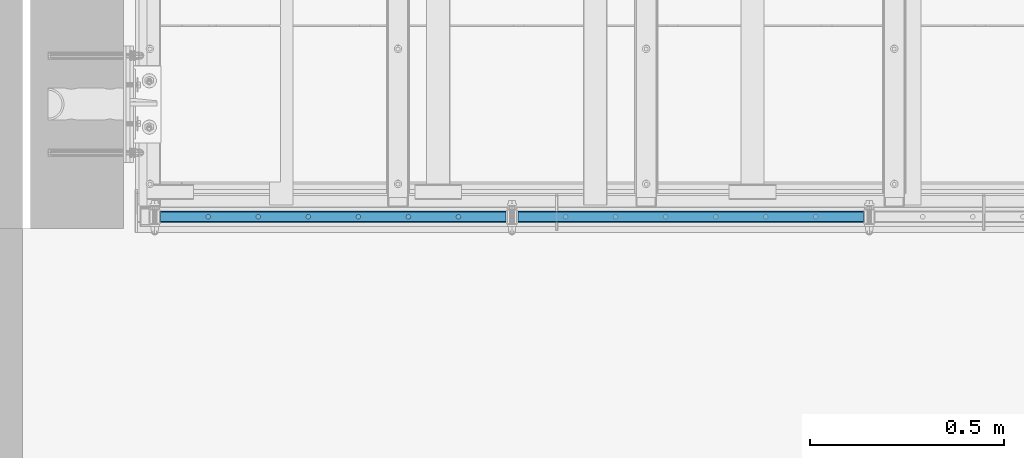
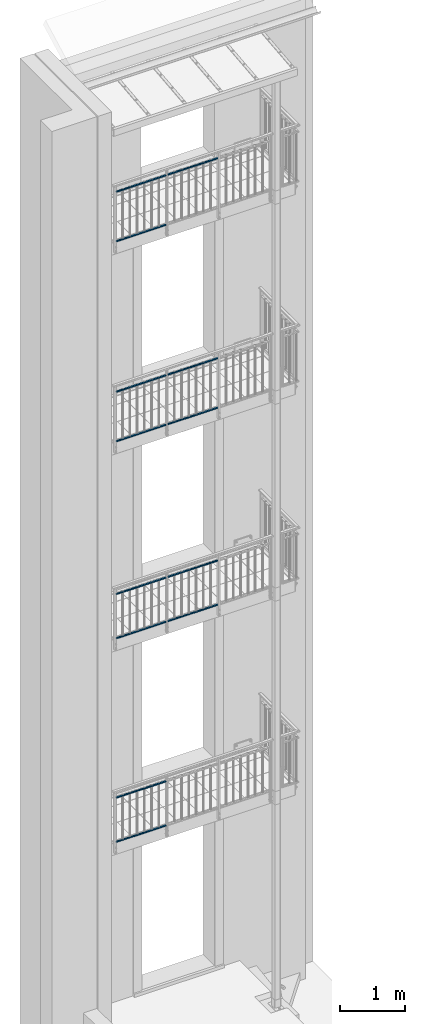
# One storey, part 50 of 162: 13 beams, 78 openings.
"""IFC2X3 building model written with IfcOpenShell, lengths in millimetres."""

from ifc_helpers import new_model, entity, si_unit, converted_unit, frame, origin, origin_with_axes, origin_2d, origin_2d_with_axis, place, context, project, spatial, hollow_rectangle, circle, extrude, material, element, save


model = new_model("IFC2X3")

# Units and contexts
model_context = context("Model", 3, precision=1e-09, world=origin_with_axes())
ifc_project = project(units=[si_unit("LENGTHUNIT", "METRE", prefix="MILLI"), si_unit("AREAUNIT", "SQUARE_METRE"), si_unit("VOLUMEUNIT", "CUBIC_METRE"), converted_unit("PLANEANGLEUNIT", "DEGREE", entity("IfcPlaneAngleMeasure", 0.01745329), si_unit("PLANEANGLEUNIT", "RADIAN"), dimensions=[0, 0, 0, 0, 0, 0, 0])], contexts=[model_context])

# Site, building, storey
site_placement = place(None, origin_with_axes())
site = spatial("IfcSite", under=ifc_project, at=site_placement, Name="Hermannstra?e 1a, 60318 Frankfurt", CompositionType="ELEMENT")
building_placement = place(site_placement, origin_with_axes())
building = spatial("IfcBuilding", under=site, at=building_placement, Name="Struktur 1", CompositionType="ELEMENT")
storey_placement = place(building_placement, origin_with_axes())
storey = spatial("IfcBuildingStorey", under=building, at=storey_placement, Name="Default Storey", CompositionType="ELEMENT", Elevation=0.0)

# Beam, openings
ifc_material = material(Name="S235JR")
beam_1_placement = place(None, frame((2618.30936482, 1515.609373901, 8640.0), z_axis=(-1.0, 0.0, 0.0), x_axis=(0.0, 0.0, -1.0)))
beam_1 = element("IfcBeam", 1, at=beam_1_placement, inside=storey, material=ifc_material, Name="-", ObjectType="-", context=model_context, shape_type="SweptSolid", body=[
    extrude(hollow_rectangle(XDim=20.0, YDim=30.0, WallThickness=2.0, InnerFilletRadius=2.0, OuterFilletRadius=4.0, at=origin_2d()), origin(), (0.0, 0.0, -1.0), 890.0),
])
opening_1_placement = place(beam_1_placement, frame((7.5, 0.0, -767.142857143), z_axis=(1.0, 0.0, 0.0), x_axis=(0.0, -1.0, 0.0)))
element("IfcOpeningElement", 2, at=opening_1_placement, cuts=beam_1, ObjectType="Opening", context=model_context, shape_type="SweptSolid", body=[
    extrude(circle(Radius=6.051, at=origin_2d_with_axis()), origin(), (0.0, 0.0, 1.0), 3.0),
])
opening_2_placement = place(beam_1_placement, frame((7.5, 0.0, -251.714285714), z_axis=(1.0, 0.0, 0.0), x_axis=(0.0, -1.0, 0.0)))
element("IfcOpeningElement", 3, at=opening_2_placement, cuts=beam_1, ObjectType="Opening", context=model_context, shape_type="SweptSolid", body=[
    extrude(circle(Radius=6.051, at=origin_2d_with_axis()), origin(), (0.0, 0.0, 1.0), 3.0),
])
opening_3_placement = place(beam_1_placement, frame((7.5, 0.0, -380.571428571), z_axis=(1.0, 0.0, 0.0), x_axis=(0.0, -1.0, 0.0)))
element("IfcOpeningElement", 4, at=opening_3_placement, cuts=beam_1, ObjectType="Opening", context=model_context, shape_type="SweptSolid", body=[
    extrude(circle(Radius=6.051, at=origin_2d_with_axis()), origin(), (0.0, 0.0, 1.0), 3.0),
])
opening_4_placement = place(beam_1_placement, frame((7.5, 0.0, -122.857142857), z_axis=(1.0, 0.0, 0.0), x_axis=(0.0, -1.0, 0.0)))
element("IfcOpeningElement", 5, at=opening_4_placement, cuts=beam_1, ObjectType="Opening", context=model_context, shape_type="SweptSolid", body=[
    extrude(circle(Radius=6.051, at=origin_2d_with_axis()), origin(), (0.0, 0.0, 1.0), 3.0),
])
opening_5_placement = place(beam_1_placement, frame((7.5, 0.0, -638.285714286), z_axis=(1.0, 0.0, 0.0), x_axis=(0.0, -1.0, 0.0)))
element("IfcOpeningElement", 6, at=opening_5_placement, cuts=beam_1, ObjectType="Opening", context=model_context, shape_type="SweptSolid", body=[
    extrude(circle(Radius=6.051, at=origin_2d_with_axis()), origin(), (0.0, 0.0, 1.0), 3.0),
])
opening_6_placement = place(beam_1_placement, frame((7.5, 0.0, -509.428571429), z_axis=(1.0, 0.0, 0.0), x_axis=(0.0, -1.0, 0.0)))
element("IfcOpeningElement", 7, at=opening_6_placement, cuts=beam_1, ObjectType="Opening", context=model_context, shape_type="SweptSolid", body=[
    extrude(circle(Radius=6.051, at=origin_2d_with_axis()), origin(), (0.0, 0.0, 1.0), 3.0),
])

beam_2_placement = place(None, frame((2618.30936482, 1515.609373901, 7810.0), z_axis=(-1.0, 0.0, 0.0), x_axis=(0.0, 0.0, -1.0)))
beam_2 = element("IfcBeam", 8, at=beam_2_placement, inside=storey, material=ifc_material, Name="-", ObjectType="-", context=model_context, shape_type="SweptSolid", body=[
    extrude(hollow_rectangle(XDim=20.0, YDim=30.0, WallThickness=2.0, InnerFilletRadius=2.0, OuterFilletRadius=4.0, at=origin_2d()), origin(), (0.0, 0.0, -1.0), 890.0),
])
opening_7_placement = place(beam_2_placement, frame((-7.5, 0.0, -122.857142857), z_axis=(-1.0, 0.0, 0.0), x_axis=(0.0, 1.0, 0.0)))
element("IfcOpeningElement", 9, at=opening_7_placement, cuts=beam_2, ObjectType="Opening", context=model_context, shape_type="SweptSolid", body=[
    extrude(circle(Radius=6.051, at=origin_2d_with_axis()), origin(), (0.0, 0.0, 1.0), 3.0),
])
opening_8_placement = place(beam_2_placement, frame((-7.5, 0.0, -251.714285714), z_axis=(-1.0, 0.0, 0.0), x_axis=(0.0, 1.0, 0.0)))
element("IfcOpeningElement", 10, at=opening_8_placement, cuts=beam_2, ObjectType="Opening", context=model_context, shape_type="SweptSolid", body=[
    extrude(circle(Radius=6.051, at=origin_2d_with_axis()), origin(), (0.0, 0.0, 1.0), 3.0),
])
opening_9_placement = place(beam_2_placement, frame((-7.5, 0.0, -380.571428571), z_axis=(-1.0, 0.0, 0.0), x_axis=(0.0, 1.0, 0.0)))
element("IfcOpeningElement", 11, at=opening_9_placement, cuts=beam_2, ObjectType="Opening", context=model_context, shape_type="SweptSolid", body=[
    extrude(circle(Radius=6.051, at=origin_2d_with_axis()), origin(), (0.0, 0.0, 1.0), 3.0),
])
opening_10_placement = place(beam_2_placement, frame((-7.5, 0.0, -767.142857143), z_axis=(-1.0, 0.0, 0.0), x_axis=(0.0, 1.0, 0.0)))
element("IfcOpeningElement", 12, at=opening_10_placement, cuts=beam_2, ObjectType="Opening", context=model_context, shape_type="SweptSolid", body=[
    extrude(circle(Radius=6.051, at=origin_2d_with_axis()), origin(), (0.0, 0.0, 1.0), 3.0),
])
opening_11_placement = place(beam_2_placement, frame((-7.5, 0.0, -638.285714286), z_axis=(-1.0, 0.0, 0.0), x_axis=(0.0, 1.0, 0.0)))
element("IfcOpeningElement", 13, at=opening_11_placement, cuts=beam_2, ObjectType="Opening", context=model_context, shape_type="SweptSolid", body=[
    extrude(circle(Radius=6.051, at=origin_2d_with_axis()), origin(), (0.0, 0.0, 1.0), 3.0),
])
opening_12_placement = place(beam_2_placement, frame((-7.5, 0.0, -509.428571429), z_axis=(-1.0, 0.0, 0.0), x_axis=(0.0, 1.0, 0.0)))
element("IfcOpeningElement", 14, at=opening_12_placement, cuts=beam_2, ObjectType="Opening", context=model_context, shape_type="SweptSolid", body=[
    extrude(circle(Radius=6.051, at=origin_2d_with_axis()), origin(), (0.0, 0.0, 1.0), 3.0),
])

beam_3_placement = place(None, frame((3538.30936482, 1515.609373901, 8640.0), z_axis=(-1.0, 0.0, 0.0), x_axis=(0.0, 0.0, -1.0)))
beam_3 = element("IfcBeam", 15, at=beam_3_placement, inside=storey, material=ifc_material, Name="-", ObjectType="-", context=model_context, shape_type="SweptSolid", body=[
    extrude(hollow_rectangle(XDim=20.0, YDim=30.0, WallThickness=2.0, InnerFilletRadius=2.0, OuterFilletRadius=4.0, at=origin_2d()), origin(), (0.0, 0.0, -1.0), 890.0),
])
opening_13_placement = place(beam_3_placement, frame((7.5, 0.0, -251.714285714), z_axis=(1.0, 0.0, 0.0), x_axis=(0.0, -1.0, 0.0)))
element("IfcOpeningElement", 16, at=opening_13_placement, cuts=beam_3, ObjectType="Opening", context=model_context, shape_type="SweptSolid", body=[
    extrude(circle(Radius=6.051, at=origin_2d_with_axis()), origin(), (0.0, 0.0, 1.0), 3.0),
])
opening_14_placement = place(beam_3_placement, frame((7.5, 0.0, -509.428571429), z_axis=(1.0, 0.0, 0.0), x_axis=(0.0, -1.0, 0.0)))
element("IfcOpeningElement", 17, at=opening_14_placement, cuts=beam_3, ObjectType="Opening", context=model_context, shape_type="SweptSolid", body=[
    extrude(circle(Radius=6.051, at=origin_2d_with_axis()), origin(), (0.0, 0.0, 1.0), 3.0),
])
opening_15_placement = place(beam_3_placement, frame((7.5, 0.0, -638.285714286), z_axis=(1.0, 0.0, 0.0), x_axis=(0.0, -1.0, 0.0)))
element("IfcOpeningElement", 18, at=opening_15_placement, cuts=beam_3, ObjectType="Opening", context=model_context, shape_type="SweptSolid", body=[
    extrude(circle(Radius=6.051, at=origin_2d_with_axis()), origin(), (0.0, 0.0, 1.0), 3.0),
])
opening_16_placement = place(beam_3_placement, frame((7.5, 0.0, -767.142857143), z_axis=(1.0, 0.0, 0.0), x_axis=(0.0, -1.0, 0.0)))
element("IfcOpeningElement", 19, at=opening_16_placement, cuts=beam_3, ObjectType="Opening", context=model_context, shape_type="SweptSolid", body=[
    extrude(circle(Radius=6.051, at=origin_2d_with_axis()), origin(), (0.0, 0.0, 1.0), 3.0),
])
opening_17_placement = place(beam_3_placement, frame((7.5, 0.0, -122.857142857), z_axis=(1.0, 0.0, 0.0), x_axis=(0.0, -1.0, 0.0)))
element("IfcOpeningElement", 20, at=opening_17_placement, cuts=beam_3, ObjectType="Opening", context=model_context, shape_type="SweptSolid", body=[
    extrude(circle(Radius=6.051, at=origin_2d_with_axis()), origin(), (0.0, 0.0, 1.0), 3.0),
])
opening_18_placement = place(beam_3_placement, frame((7.5, 0.0, -380.571428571), z_axis=(1.0, 0.0, 0.0), x_axis=(0.0, -1.0, 0.0)))
element("IfcOpeningElement", 21, at=opening_18_placement, cuts=beam_3, ObjectType="Opening", context=model_context, shape_type="SweptSolid", body=[
    extrude(circle(Radius=6.051, at=origin_2d_with_axis()), origin(), (0.0, 0.0, 1.0), 3.0),
])

beam_4_placement = place(None, frame((3538.30936482, 1515.609373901, 7810.0), z_axis=(-1.0, 0.0, 0.0), x_axis=(0.0, 0.0, -1.0)))
beam_4 = element("IfcBeam", 22, at=beam_4_placement, inside=storey, material=ifc_material, Name="-", ObjectType="-", context=model_context, shape_type="SweptSolid", body=[
    extrude(hollow_rectangle(XDim=20.0, YDim=30.0, WallThickness=2.0, InnerFilletRadius=2.0, OuterFilletRadius=4.0, at=origin_2d()), origin(), (0.0, 0.0, -1.0), 890.0),
])
opening_19_placement = place(beam_4_placement, frame((-7.5, 0.0, -122.857142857), z_axis=(-1.0, 0.0, 0.0), x_axis=(0.0, 1.0, 0.0)))
element("IfcOpeningElement", 23, at=opening_19_placement, cuts=beam_4, ObjectType="Opening", context=model_context, shape_type="SweptSolid", body=[
    extrude(circle(Radius=6.051, at=origin_2d_with_axis()), origin(), (0.0, 0.0, 1.0), 3.0),
])
opening_20_placement = place(beam_4_placement, frame((-7.5, 0.0, -767.142857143), z_axis=(-1.0, 0.0, 0.0), x_axis=(0.0, 1.0, 0.0)))
element("IfcOpeningElement", 24, at=opening_20_placement, cuts=beam_4, ObjectType="Opening", context=model_context, shape_type="SweptSolid", body=[
    extrude(circle(Radius=6.051, at=origin_2d_with_axis()), origin(), (0.0, 0.0, 1.0), 3.0),
])
opening_21_placement = place(beam_4_placement, frame((-7.5, 0.0, -509.428571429), z_axis=(-1.0, 0.0, 0.0), x_axis=(0.0, 1.0, 0.0)))
element("IfcOpeningElement", 25, at=opening_21_placement, cuts=beam_4, ObjectType="Opening", context=model_context, shape_type="SweptSolid", body=[
    extrude(circle(Radius=6.051, at=origin_2d_with_axis()), origin(), (0.0, 0.0, 1.0), 3.0),
])
opening_22_placement = place(beam_4_placement, frame((-7.5, 0.0, -638.285714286), z_axis=(-1.0, 0.0, 0.0), x_axis=(0.0, 1.0, 0.0)))
element("IfcOpeningElement", 26, at=opening_22_placement, cuts=beam_4, ObjectType="Opening", context=model_context, shape_type="SweptSolid", body=[
    extrude(circle(Radius=6.051, at=origin_2d_with_axis()), origin(), (0.0, 0.0, 1.0), 3.0),
])
opening_23_placement = place(beam_4_placement, frame((-7.5, 0.0, -380.571428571), z_axis=(-1.0, 0.0, 0.0), x_axis=(0.0, 1.0, 0.0)))
element("IfcOpeningElement", 27, at=opening_23_placement, cuts=beam_4, ObjectType="Opening", context=model_context, shape_type="SweptSolid", body=[
    extrude(circle(Radius=6.051, at=origin_2d_with_axis()), origin(), (0.0, 0.0, 1.0), 3.0),
])
opening_24_placement = place(beam_4_placement, frame((-7.5, 0.0, -251.714285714), z_axis=(-1.0, 0.0, 0.0), x_axis=(0.0, 1.0, 0.0)))
element("IfcOpeningElement", 28, at=opening_24_placement, cuts=beam_4, ObjectType="Opening", context=model_context, shape_type="SweptSolid", body=[
    extrude(circle(Radius=6.051, at=origin_2d_with_axis()), origin(), (0.0, 0.0, 1.0), 3.0),
])

beam_5_placement = place(None, frame((2618.30936482, 1515.609373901, 12439.999), z_axis=(-1.0, 0.0, 0.0), x_axis=(0.0, 0.0, -1.0)))
beam_5 = element("IfcBeam", 29, at=beam_5_placement, inside=storey, material=ifc_material, Name="-", ObjectType="-", context=model_context, shape_type="SweptSolid", body=[
    extrude(hollow_rectangle(XDim=20.0, YDim=30.0, WallThickness=2.0, InnerFilletRadius=2.0, OuterFilletRadius=4.0, at=origin_2d()), origin(), (0.0, 0.0, -1.0), 890.0),
])
opening_25_placement = place(beam_5_placement, frame((7.5, 0.0, -767.142857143), z_axis=(1.0, 0.0, 0.0), x_axis=(0.0, -1.0, 0.0)))
element("IfcOpeningElement", 30, at=opening_25_placement, cuts=beam_5, ObjectType="Opening", context=model_context, shape_type="SweptSolid", body=[
    extrude(circle(Radius=6.051, at=origin_2d_with_axis()), origin(), (0.0, 0.0, 1.0), 3.0),
])
opening_26_placement = place(beam_5_placement, frame((7.5, 0.0, -251.714285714), z_axis=(1.0, 0.0, 0.0), x_axis=(0.0, -1.0, 0.0)))
element("IfcOpeningElement", 31, at=opening_26_placement, cuts=beam_5, ObjectType="Opening", context=model_context, shape_type="SweptSolid", body=[
    extrude(circle(Radius=6.051, at=origin_2d_with_axis()), origin(), (0.0, 0.0, 1.0), 3.0),
])
opening_27_placement = place(beam_5_placement, frame((7.5, 0.0, -380.571428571), z_axis=(1.0, 0.0, 0.0), x_axis=(0.0, -1.0, 0.0)))
element("IfcOpeningElement", 32, at=opening_27_placement, cuts=beam_5, ObjectType="Opening", context=model_context, shape_type="SweptSolid", body=[
    extrude(circle(Radius=6.051, at=origin_2d_with_axis()), origin(), (0.0, 0.0, 1.0), 3.0),
])
opening_28_placement = place(beam_5_placement, frame((7.5, 0.0, -122.857142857), z_axis=(1.0, 0.0, 0.0), x_axis=(0.0, -1.0, 0.0)))
element("IfcOpeningElement", 33, at=opening_28_placement, cuts=beam_5, ObjectType="Opening", context=model_context, shape_type="SweptSolid", body=[
    extrude(circle(Radius=6.051, at=origin_2d_with_axis()), origin(), (0.0, 0.0, 1.0), 3.0),
])
opening_29_placement = place(beam_5_placement, frame((7.5, 0.0, -638.285714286), z_axis=(1.0, 0.0, 0.0), x_axis=(0.0, -1.0, 0.0)))
element("IfcOpeningElement", 34, at=opening_29_placement, cuts=beam_5, ObjectType="Opening", context=model_context, shape_type="SweptSolid", body=[
    extrude(circle(Radius=6.051, at=origin_2d_with_axis()), origin(), (0.0, 0.0, 1.0), 3.0),
])
opening_30_placement = place(beam_5_placement, frame((7.5, 0.0, -509.428571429), z_axis=(1.0, 0.0, 0.0), x_axis=(0.0, -1.0, 0.0)))
element("IfcOpeningElement", 35, at=opening_30_placement, cuts=beam_5, ObjectType="Opening", context=model_context, shape_type="SweptSolid", body=[
    extrude(circle(Radius=6.051, at=origin_2d_with_axis()), origin(), (0.0, 0.0, 1.0), 3.0),
])

beam_6_placement = place(None, frame((2618.30936482, 1515.609373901, 11509.999), z_axis=(-1.0, 0.0, 0.0), x_axis=(0.0, 0.0, -1.0)))
beam_6 = element("IfcBeam", 36, at=beam_6_placement, inside=storey, material=ifc_material, Name="-", ObjectType="-", context=model_context, shape_type="SweptSolid", body=[
    extrude(hollow_rectangle(XDim=20.0, YDim=30.0, WallThickness=2.0, InnerFilletRadius=2.0, OuterFilletRadius=4.0, at=origin_2d()), origin(), (0.0, 0.0, -1.0), 890.0),
])
opening_31_placement = place(beam_6_placement, frame((-7.5, 0.0, -122.857142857), z_axis=(-1.0, 0.0, 0.0), x_axis=(0.0, 1.0, 0.0)))
element("IfcOpeningElement", 37, at=opening_31_placement, cuts=beam_6, ObjectType="Opening", context=model_context, shape_type="SweptSolid", body=[
    extrude(circle(Radius=6.051, at=origin_2d_with_axis()), origin(), (0.0, 0.0, 1.0), 3.0),
])
opening_32_placement = place(beam_6_placement, frame((-7.5, 0.0, -251.714285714), z_axis=(-1.0, 0.0, 0.0), x_axis=(0.0, 1.0, 0.0)))
element("IfcOpeningElement", 38, at=opening_32_placement, cuts=beam_6, ObjectType="Opening", context=model_context, shape_type="SweptSolid", body=[
    extrude(circle(Radius=6.051, at=origin_2d_with_axis()), origin(), (0.0, 0.0, 1.0), 3.0),
])
opening_33_placement = place(beam_6_placement, frame((-7.5, 0.0, -380.571428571), z_axis=(-1.0, 0.0, 0.0), x_axis=(0.0, 1.0, 0.0)))
element("IfcOpeningElement", 39, at=opening_33_placement, cuts=beam_6, ObjectType="Opening", context=model_context, shape_type="SweptSolid", body=[
    extrude(circle(Radius=6.051, at=origin_2d_with_axis()), origin(), (0.0, 0.0, 1.0), 3.0),
])
opening_34_placement = place(beam_6_placement, frame((-7.5, 0.0, -767.142857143), z_axis=(-1.0, 0.0, 0.0), x_axis=(0.0, 1.0, 0.0)))
element("IfcOpeningElement", 40, at=opening_34_placement, cuts=beam_6, ObjectType="Opening", context=model_context, shape_type="SweptSolid", body=[
    extrude(circle(Radius=6.051, at=origin_2d_with_axis()), origin(), (0.0, 0.0, 1.0), 3.0),
])
opening_35_placement = place(beam_6_placement, frame((-7.5, 0.0, -638.285714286), z_axis=(-1.0, 0.0, 0.0), x_axis=(0.0, 1.0, 0.0)))
element("IfcOpeningElement", 41, at=opening_35_placement, cuts=beam_6, ObjectType="Opening", context=model_context, shape_type="SweptSolid", body=[
    extrude(circle(Radius=6.051, at=origin_2d_with_axis()), origin(), (0.0, 0.0, 1.0), 3.0),
])
opening_36_placement = place(beam_6_placement, frame((-7.5, 0.0, -509.428571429), z_axis=(-1.0, 0.0, 0.0), x_axis=(0.0, 1.0, 0.0)))
element("IfcOpeningElement", 42, at=opening_36_placement, cuts=beam_6, ObjectType="Opening", context=model_context, shape_type="SweptSolid", body=[
    extrude(circle(Radius=6.051, at=origin_2d_with_axis()), origin(), (0.0, 0.0, 1.0), 3.0),
])

beam_7_placement = place(None, frame((3538.30936482, 1515.609373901, 12439.999), z_axis=(-1.0, 0.0, 0.0), x_axis=(0.0, 0.0, -1.0)))
beam_7 = element("IfcBeam", 43, at=beam_7_placement, inside=storey, material=ifc_material, Name="-", ObjectType="-", context=model_context, shape_type="SweptSolid", body=[
    extrude(hollow_rectangle(XDim=20.0, YDim=30.0, WallThickness=2.0, InnerFilletRadius=2.0, OuterFilletRadius=4.0, at=origin_2d()), origin(), (0.0, 0.0, -1.0), 890.0),
])
opening_37_placement = place(beam_7_placement, frame((7.5, 0.0, -251.714285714), z_axis=(1.0, 0.0, 0.0), x_axis=(0.0, -1.0, 0.0)))
element("IfcOpeningElement", 44, at=opening_37_placement, cuts=beam_7, ObjectType="Opening", context=model_context, shape_type="SweptSolid", body=[
    extrude(circle(Radius=6.051, at=origin_2d_with_axis()), origin(), (0.0, 0.0, 1.0), 3.0),
])
opening_38_placement = place(beam_7_placement, frame((7.5, 0.0, -509.428571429), z_axis=(1.0, 0.0, 0.0), x_axis=(0.0, -1.0, 0.0)))
element("IfcOpeningElement", 45, at=opening_38_placement, cuts=beam_7, ObjectType="Opening", context=model_context, shape_type="SweptSolid", body=[
    extrude(circle(Radius=6.051, at=origin_2d_with_axis()), origin(), (0.0, 0.0, 1.0), 3.0),
])
opening_39_placement = place(beam_7_placement, frame((7.5, 0.0, -638.285714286), z_axis=(1.0, 0.0, 0.0), x_axis=(0.0, -1.0, 0.0)))
element("IfcOpeningElement", 46, at=opening_39_placement, cuts=beam_7, ObjectType="Opening", context=model_context, shape_type="SweptSolid", body=[
    extrude(circle(Radius=6.051, at=origin_2d_with_axis()), origin(), (0.0, 0.0, 1.0), 3.0),
])
opening_40_placement = place(beam_7_placement, frame((7.5, 0.0, -767.142857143), z_axis=(1.0, 0.0, 0.0), x_axis=(0.0, -1.0, 0.0)))
element("IfcOpeningElement", 47, at=opening_40_placement, cuts=beam_7, ObjectType="Opening", context=model_context, shape_type="SweptSolid", body=[
    extrude(circle(Radius=6.051, at=origin_2d_with_axis()), origin(), (0.0, 0.0, 1.0), 3.0),
])
opening_41_placement = place(beam_7_placement, frame((7.5, 0.0, -122.857142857), z_axis=(1.0, 0.0, 0.0), x_axis=(0.0, -1.0, 0.0)))
element("IfcOpeningElement", 48, at=opening_41_placement, cuts=beam_7, ObjectType="Opening", context=model_context, shape_type="SweptSolid", body=[
    extrude(circle(Radius=6.051, at=origin_2d_with_axis()), origin(), (0.0, 0.0, 1.0), 3.0),
])
opening_42_placement = place(beam_7_placement, frame((7.5, 0.0, -380.571428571), z_axis=(1.0, 0.0, 0.0), x_axis=(0.0, -1.0, 0.0)))
element("IfcOpeningElement", 49, at=opening_42_placement, cuts=beam_7, ObjectType="Opening", context=model_context, shape_type="SweptSolid", body=[
    extrude(circle(Radius=6.051, at=origin_2d_with_axis()), origin(), (0.0, 0.0, 1.0), 3.0),
])

beam_8_placement = place(None, frame((3538.30936482, 1515.609373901, 11509.999), z_axis=(-1.0, 0.0, 0.0), x_axis=(0.0, 0.0, -1.0)))
beam_8 = element("IfcBeam", 50, at=beam_8_placement, inside=storey, material=ifc_material, Name="-", ObjectType="-", context=model_context, shape_type="SweptSolid", body=[
    extrude(hollow_rectangle(XDim=20.0, YDim=30.0, WallThickness=2.0, InnerFilletRadius=2.0, OuterFilletRadius=4.0, at=origin_2d()), origin(), (0.0, 0.0, -1.0), 890.0),
])
opening_43_placement = place(beam_8_placement, frame((-7.5, 0.0, -122.857142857), z_axis=(-1.0, 0.0, 0.0), x_axis=(0.0, 1.0, 0.0)))
element("IfcOpeningElement", 51, at=opening_43_placement, cuts=beam_8, ObjectType="Opening", context=model_context, shape_type="SweptSolid", body=[
    extrude(circle(Radius=6.051, at=origin_2d_with_axis()), origin(), (0.0, 0.0, 1.0), 3.0),
])
opening_44_placement = place(beam_8_placement, frame((-7.5, 0.0, -767.142857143), z_axis=(-1.0, 0.0, 0.0), x_axis=(0.0, 1.0, 0.0)))
element("IfcOpeningElement", 52, at=opening_44_placement, cuts=beam_8, ObjectType="Opening", context=model_context, shape_type="SweptSolid", body=[
    extrude(circle(Radius=6.051, at=origin_2d_with_axis()), origin(), (0.0, 0.0, 1.0), 3.0),
])
opening_45_placement = place(beam_8_placement, frame((-7.5, 0.0, -509.428571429), z_axis=(-1.0, 0.0, 0.0), x_axis=(0.0, 1.0, 0.0)))
element("IfcOpeningElement", 53, at=opening_45_placement, cuts=beam_8, ObjectType="Opening", context=model_context, shape_type="SweptSolid", body=[
    extrude(circle(Radius=6.051, at=origin_2d_with_axis()), origin(), (0.0, 0.0, 1.0), 3.0),
])
opening_46_placement = place(beam_8_placement, frame((-7.5, 0.0, -638.285714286), z_axis=(-1.0, 0.0, 0.0), x_axis=(0.0, 1.0, 0.0)))
element("IfcOpeningElement", 54, at=opening_46_placement, cuts=beam_8, ObjectType="Opening", context=model_context, shape_type="SweptSolid", body=[
    extrude(circle(Radius=6.051, at=origin_2d_with_axis()), origin(), (0.0, 0.0, 1.0), 3.0),
])
opening_47_placement = place(beam_8_placement, frame((-7.5, 0.0, -380.571428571), z_axis=(-1.0, 0.0, 0.0), x_axis=(0.0, 1.0, 0.0)))
element("IfcOpeningElement", 55, at=opening_47_placement, cuts=beam_8, ObjectType="Opening", context=model_context, shape_type="SweptSolid", body=[
    extrude(circle(Radius=6.051, at=origin_2d_with_axis()), origin(), (0.0, 0.0, 1.0), 3.0),
])
opening_48_placement = place(beam_8_placement, frame((-7.5, 0.0, -251.714285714), z_axis=(-1.0, 0.0, 0.0), x_axis=(0.0, 1.0, 0.0)))
element("IfcOpeningElement", 56, at=opening_48_placement, cuts=beam_8, ObjectType="Opening", context=model_context, shape_type="SweptSolid", body=[
    extrude(circle(Radius=6.051, at=origin_2d_with_axis()), origin(), (0.0, 0.0, 1.0), 3.0),
])

beam_9_placement = place(None, frame((2618.30936482, 1515.609373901, 16196.999), z_axis=(-1.0, 0.0, 0.0), x_axis=(0.0, 0.0, -1.0)))
beam_9 = element("IfcBeam", 57, at=beam_9_placement, inside=storey, material=ifc_material, Name="-", ObjectType="-", context=model_context, shape_type="SweptSolid", body=[
    extrude(hollow_rectangle(XDim=20.0, YDim=30.0, WallThickness=2.0, InnerFilletRadius=2.0, OuterFilletRadius=4.0, at=origin_2d()), origin(), (0.0, 0.0, -1.0), 890.0),
])
opening_49_placement = place(beam_9_placement, frame((7.5, 0.0, -767.142857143), z_axis=(1.0, 0.0, 0.0), x_axis=(0.0, -1.0, 0.0)))
element("IfcOpeningElement", 58, at=opening_49_placement, cuts=beam_9, ObjectType="Opening", context=model_context, shape_type="SweptSolid", body=[
    extrude(circle(Radius=6.051, at=origin_2d_with_axis()), origin(), (0.0, 0.0, 1.0), 3.0),
])
opening_50_placement = place(beam_9_placement, frame((7.5, 0.0, -251.714285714), z_axis=(1.0, 0.0, 0.0), x_axis=(0.0, -1.0, 0.0)))
element("IfcOpeningElement", 59, at=opening_50_placement, cuts=beam_9, ObjectType="Opening", context=model_context, shape_type="SweptSolid", body=[
    extrude(circle(Radius=6.051, at=origin_2d_with_axis()), origin(), (0.0, 0.0, 1.0), 3.0),
])
opening_51_placement = place(beam_9_placement, frame((7.5, 0.0, -380.571428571), z_axis=(1.0, 0.0, 0.0), x_axis=(0.0, -1.0, 0.0)))
element("IfcOpeningElement", 60, at=opening_51_placement, cuts=beam_9, ObjectType="Opening", context=model_context, shape_type="SweptSolid", body=[
    extrude(circle(Radius=6.051, at=origin_2d_with_axis()), origin(), (0.0, 0.0, 1.0), 3.0),
])
opening_52_placement = place(beam_9_placement, frame((7.5, 0.0, -122.857142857), z_axis=(1.0, 0.0, 0.0), x_axis=(0.0, -1.0, 0.0)))
element("IfcOpeningElement", 61, at=opening_52_placement, cuts=beam_9, ObjectType="Opening", context=model_context, shape_type="SweptSolid", body=[
    extrude(circle(Radius=6.051, at=origin_2d_with_axis()), origin(), (0.0, 0.0, 1.0), 3.0),
])
opening_53_placement = place(beam_9_placement, frame((7.5, 0.0, -638.285714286), z_axis=(1.0, 0.0, 0.0), x_axis=(0.0, -1.0, 0.0)))
element("IfcOpeningElement", 62, at=opening_53_placement, cuts=beam_9, ObjectType="Opening", context=model_context, shape_type="SweptSolid", body=[
    extrude(circle(Radius=6.051, at=origin_2d_with_axis()), origin(), (0.0, 0.0, 1.0), 3.0),
])
opening_54_placement = place(beam_9_placement, frame((7.5, 0.0, -509.428571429), z_axis=(1.0, 0.0, 0.0), x_axis=(0.0, -1.0, 0.0)))
element("IfcOpeningElement", 63, at=opening_54_placement, cuts=beam_9, ObjectType="Opening", context=model_context, shape_type="SweptSolid", body=[
    extrude(circle(Radius=6.051, at=origin_2d_with_axis()), origin(), (0.0, 0.0, 1.0), 3.0),
])

beam_10_placement = place(None, frame((2618.30936482, 1515.609373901, 15266.999), z_axis=(-1.0, 0.0, 0.0), x_axis=(0.0, 0.0, -1.0)))
beam_10 = element("IfcBeam", 64, at=beam_10_placement, inside=storey, material=ifc_material, Name="-", ObjectType="-", context=model_context, shape_type="SweptSolid", body=[
    extrude(hollow_rectangle(XDim=20.0, YDim=30.0, WallThickness=2.0, InnerFilletRadius=2.0, OuterFilletRadius=4.0, at=origin_2d()), origin(), (0.0, 0.0, -1.0), 890.0),
])
opening_55_placement = place(beam_10_placement, frame((-7.5, 0.0, -122.857142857), z_axis=(-1.0, 0.0, 0.0), x_axis=(0.0, 1.0, 0.0)))
element("IfcOpeningElement", 65, at=opening_55_placement, cuts=beam_10, ObjectType="Opening", context=model_context, shape_type="SweptSolid", body=[
    extrude(circle(Radius=6.051, at=origin_2d_with_axis()), origin(), (0.0, 0.0, 1.0), 3.0),
])
opening_56_placement = place(beam_10_placement, frame((-7.5, 0.0, -251.714285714), z_axis=(-1.0, 0.0, 0.0), x_axis=(0.0, 1.0, 0.0)))
element("IfcOpeningElement", 66, at=opening_56_placement, cuts=beam_10, ObjectType="Opening", context=model_context, shape_type="SweptSolid", body=[
    extrude(circle(Radius=6.051, at=origin_2d_with_axis()), origin(), (0.0, 0.0, 1.0), 3.0),
])
opening_57_placement = place(beam_10_placement, frame((-7.5, 0.0, -380.571428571), z_axis=(-1.0, 0.0, 0.0), x_axis=(0.0, 1.0, 0.0)))
element("IfcOpeningElement", 67, at=opening_57_placement, cuts=beam_10, ObjectType="Opening", context=model_context, shape_type="SweptSolid", body=[
    extrude(circle(Radius=6.051, at=origin_2d_with_axis()), origin(), (0.0, 0.0, 1.0), 3.0),
])
opening_58_placement = place(beam_10_placement, frame((-7.5, 0.0, -767.142857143), z_axis=(-1.0, 0.0, 0.0), x_axis=(0.0, 1.0, 0.0)))
element("IfcOpeningElement", 68, at=opening_58_placement, cuts=beam_10, ObjectType="Opening", context=model_context, shape_type="SweptSolid", body=[
    extrude(circle(Radius=6.051, at=origin_2d_with_axis()), origin(), (0.0, 0.0, 1.0), 3.0),
])
opening_59_placement = place(beam_10_placement, frame((-7.5, 0.0, -638.285714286), z_axis=(-1.0, 0.0, 0.0), x_axis=(0.0, 1.0, 0.0)))
element("IfcOpeningElement", 69, at=opening_59_placement, cuts=beam_10, ObjectType="Opening", context=model_context, shape_type="SweptSolid", body=[
    extrude(circle(Radius=6.051, at=origin_2d_with_axis()), origin(), (0.0, 0.0, 1.0), 3.0),
])
opening_60_placement = place(beam_10_placement, frame((-7.5, 0.0, -509.428571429), z_axis=(-1.0, 0.0, 0.0), x_axis=(0.0, 1.0, 0.0)))
element("IfcOpeningElement", 70, at=opening_60_placement, cuts=beam_10, ObjectType="Opening", context=model_context, shape_type="SweptSolid", body=[
    extrude(circle(Radius=6.051, at=origin_2d_with_axis()), origin(), (0.0, 0.0, 1.0), 3.0),
])

beam_11_placement = place(None, frame((3538.30936482, 1515.609373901, 16196.999), z_axis=(-1.0, 0.0, 0.0), x_axis=(0.0, 0.0, -1.0)))
beam_11 = element("IfcBeam", 71, at=beam_11_placement, inside=storey, material=ifc_material, Name="-", ObjectType="-", context=model_context, shape_type="SweptSolid", body=[
    extrude(hollow_rectangle(XDim=20.0, YDim=30.0, WallThickness=2.0, InnerFilletRadius=2.0, OuterFilletRadius=4.0, at=origin_2d()), origin(), (0.0, 0.0, -1.0), 890.0),
])
opening_61_placement = place(beam_11_placement, frame((7.5, 0.0, -251.714285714), z_axis=(1.0, 0.0, 0.0), x_axis=(0.0, -1.0, 0.0)))
element("IfcOpeningElement", 72, at=opening_61_placement, cuts=beam_11, ObjectType="Opening", context=model_context, shape_type="SweptSolid", body=[
    extrude(circle(Radius=6.051, at=origin_2d_with_axis()), origin(), (0.0, 0.0, 1.0), 3.0),
])
opening_62_placement = place(beam_11_placement, frame((7.5, 0.0, -509.428571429), z_axis=(1.0, 0.0, 0.0), x_axis=(0.0, -1.0, 0.0)))
element("IfcOpeningElement", 73, at=opening_62_placement, cuts=beam_11, ObjectType="Opening", context=model_context, shape_type="SweptSolid", body=[
    extrude(circle(Radius=6.051, at=origin_2d_with_axis()), origin(), (0.0, 0.0, 1.0), 3.0),
])
opening_63_placement = place(beam_11_placement, frame((7.5, 0.0, -638.285714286), z_axis=(1.0, 0.0, 0.0), x_axis=(0.0, -1.0, 0.0)))
element("IfcOpeningElement", 74, at=opening_63_placement, cuts=beam_11, ObjectType="Opening", context=model_context, shape_type="SweptSolid", body=[
    extrude(circle(Radius=6.051, at=origin_2d_with_axis()), origin(), (0.0, 0.0, 1.0), 3.0),
])
opening_64_placement = place(beam_11_placement, frame((7.5, 0.0, -767.142857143), z_axis=(1.0, 0.0, 0.0), x_axis=(0.0, -1.0, 0.0)))
element("IfcOpeningElement", 75, at=opening_64_placement, cuts=beam_11, ObjectType="Opening", context=model_context, shape_type="SweptSolid", body=[
    extrude(circle(Radius=6.051, at=origin_2d_with_axis()), origin(), (0.0, 0.0, 1.0), 3.0),
])
opening_65_placement = place(beam_11_placement, frame((7.5, 0.0, -122.857142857), z_axis=(1.0, 0.0, 0.0), x_axis=(0.0, -1.0, 0.0)))
element("IfcOpeningElement", 76, at=opening_65_placement, cuts=beam_11, ObjectType="Opening", context=model_context, shape_type="SweptSolid", body=[
    extrude(circle(Radius=6.051, at=origin_2d_with_axis()), origin(), (0.0, 0.0, 1.0), 3.0),
])
opening_66_placement = place(beam_11_placement, frame((7.5, 0.0, -380.571428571), z_axis=(1.0, 0.0, 0.0), x_axis=(0.0, -1.0, 0.0)))
element("IfcOpeningElement", 77, at=opening_66_placement, cuts=beam_11, ObjectType="Opening", context=model_context, shape_type="SweptSolid", body=[
    extrude(circle(Radius=6.051, at=origin_2d_with_axis()), origin(), (0.0, 0.0, 1.0), 3.0),
])

beam_12_placement = place(None, frame((2618.30936482, 1515.609373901, 4815.0), z_axis=(-1.0, 0.0, 0.0), x_axis=(0.0, 0.0, -1.0)))
beam_12 = element("IfcBeam", 78, at=beam_12_placement, inside=storey, material=ifc_material, Name="-", ObjectType="-", context=model_context, shape_type="SweptSolid", body=[
    extrude(hollow_rectangle(XDim=20.0, YDim=30.0, WallThickness=2.0, InnerFilletRadius=2.0, OuterFilletRadius=4.0, at=origin_2d()), origin(), (0.0, 0.0, -1.0), 890.0),
])
opening_67_placement = place(beam_12_placement, frame((7.5, 0.0, -767.142857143), z_axis=(1.0, 0.0, 0.0), x_axis=(0.0, -1.0, 0.0)))
element("IfcOpeningElement", 79, at=opening_67_placement, cuts=beam_12, ObjectType="Opening", context=model_context, shape_type="SweptSolid", body=[
    extrude(circle(Radius=6.051, at=origin_2d_with_axis()), origin(), (0.0, 0.0, 1.0), 3.0),
])
opening_68_placement = place(beam_12_placement, frame((7.5, 0.0, -251.714285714), z_axis=(1.0, 0.0, 0.0), x_axis=(0.0, -1.0, 0.0)))
element("IfcOpeningElement", 80, at=opening_68_placement, cuts=beam_12, ObjectType="Opening", context=model_context, shape_type="SweptSolid", body=[
    extrude(circle(Radius=6.051, at=origin_2d_with_axis()), origin(), (0.0, 0.0, 1.0), 3.0),
])
opening_69_placement = place(beam_12_placement, frame((7.5, 0.0, -380.571428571), z_axis=(1.0, 0.0, 0.0), x_axis=(0.0, -1.0, 0.0)))
element("IfcOpeningElement", 81, at=opening_69_placement, cuts=beam_12, ObjectType="Opening", context=model_context, shape_type="SweptSolid", body=[
    extrude(circle(Radius=6.051, at=origin_2d_with_axis()), origin(), (0.0, 0.0, 1.0), 3.0),
])
opening_70_placement = place(beam_12_placement, frame((7.5, 0.0, -122.857142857), z_axis=(1.0, 0.0, 0.0), x_axis=(0.0, -1.0, 0.0)))
element("IfcOpeningElement", 82, at=opening_70_placement, cuts=beam_12, ObjectType="Opening", context=model_context, shape_type="SweptSolid", body=[
    extrude(circle(Radius=6.051, at=origin_2d_with_axis()), origin(), (0.0, 0.0, 1.0), 3.0),
])
opening_71_placement = place(beam_12_placement, frame((7.5, 0.0, -638.285714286), z_axis=(1.0, 0.0, 0.0), x_axis=(0.0, -1.0, 0.0)))
element("IfcOpeningElement", 83, at=opening_71_placement, cuts=beam_12, ObjectType="Opening", context=model_context, shape_type="SweptSolid", body=[
    extrude(circle(Radius=6.051, at=origin_2d_with_axis()), origin(), (0.0, 0.0, 1.0), 3.0),
])
opening_72_placement = place(beam_12_placement, frame((7.5, 0.0, -509.428571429), z_axis=(1.0, 0.0, 0.0), x_axis=(0.0, -1.0, 0.0)))
element("IfcOpeningElement", 84, at=opening_72_placement, cuts=beam_12, ObjectType="Opening", context=model_context, shape_type="SweptSolid", body=[
    extrude(circle(Radius=6.051, at=origin_2d_with_axis()), origin(), (0.0, 0.0, 1.0), 3.0),
])

beam_13_placement = place(None, frame((2618.30936482, 1515.609373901, 3985.0), z_axis=(-1.0, 0.0, 0.0), x_axis=(0.0, 0.0, -1.0)))
beam_13 = element("IfcBeam", 85, at=beam_13_placement, inside=storey, material=ifc_material, Name="-", ObjectType="-", context=model_context, shape_type="SweptSolid", body=[
    extrude(hollow_rectangle(XDim=20.0, YDim=30.0, WallThickness=2.0, InnerFilletRadius=2.0, OuterFilletRadius=4.0, at=origin_2d()), origin(), (0.0, 0.0, -1.0), 890.0),
])
opening_73_placement = place(beam_13_placement, frame((-7.5, 0.0, -122.857142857), z_axis=(-1.0, 0.0, 0.0), x_axis=(0.0, 1.0, 0.0)))
element("IfcOpeningElement", 86, at=opening_73_placement, cuts=beam_13, ObjectType="Opening", context=model_context, shape_type="SweptSolid", body=[
    extrude(circle(Radius=6.051, at=origin_2d_with_axis()), origin(), (0.0, 0.0, 1.0), 3.0),
])
opening_74_placement = place(beam_13_placement, frame((-7.5, 0.0, -251.714285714), z_axis=(-1.0, 0.0, 0.0), x_axis=(0.0, 1.0, 0.0)))
element("IfcOpeningElement", 87, at=opening_74_placement, cuts=beam_13, ObjectType="Opening", context=model_context, shape_type="SweptSolid", body=[
    extrude(circle(Radius=6.051, at=origin_2d_with_axis()), origin(), (0.0, 0.0, 1.0), 3.0),
])
opening_75_placement = place(beam_13_placement, frame((-7.5, 0.0, -380.571428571), z_axis=(-1.0, 0.0, 0.0), x_axis=(0.0, 1.0, 0.0)))
element("IfcOpeningElement", 88, at=opening_75_placement, cuts=beam_13, ObjectType="Opening", context=model_context, shape_type="SweptSolid", body=[
    extrude(circle(Radius=6.051, at=origin_2d_with_axis()), origin(), (0.0, 0.0, 1.0), 3.0),
])
opening_76_placement = place(beam_13_placement, frame((-7.5, 0.0, -767.142857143), z_axis=(-1.0, 0.0, 0.0), x_axis=(0.0, 1.0, 0.0)))
element("IfcOpeningElement", 89, at=opening_76_placement, cuts=beam_13, ObjectType="Opening", context=model_context, shape_type="SweptSolid", body=[
    extrude(circle(Radius=6.051, at=origin_2d_with_axis()), origin(), (0.0, 0.0, 1.0), 3.0),
])
opening_77_placement = place(beam_13_placement, frame((-7.5, 0.0, -638.285714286), z_axis=(-1.0, 0.0, 0.0), x_axis=(0.0, 1.0, 0.0)))
element("IfcOpeningElement", 90, at=opening_77_placement, cuts=beam_13, ObjectType="Opening", context=model_context, shape_type="SweptSolid", body=[
    extrude(circle(Radius=6.051, at=origin_2d_with_axis()), origin(), (0.0, 0.0, 1.0), 3.0),
])
opening_78_placement = place(beam_13_placement, frame((-7.5, 0.0, -509.428571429), z_axis=(-1.0, 0.0, 0.0), x_axis=(0.0, 1.0, 0.0)))
element("IfcOpeningElement", 91, at=opening_78_placement, cuts=beam_13, ObjectType="Opening", context=model_context, shape_type="SweptSolid", body=[
    extrude(circle(Radius=6.051, at=origin_2d_with_axis()), origin(), (0.0, 0.0, 1.0), 3.0),
])

save(model, "model.ifc")
